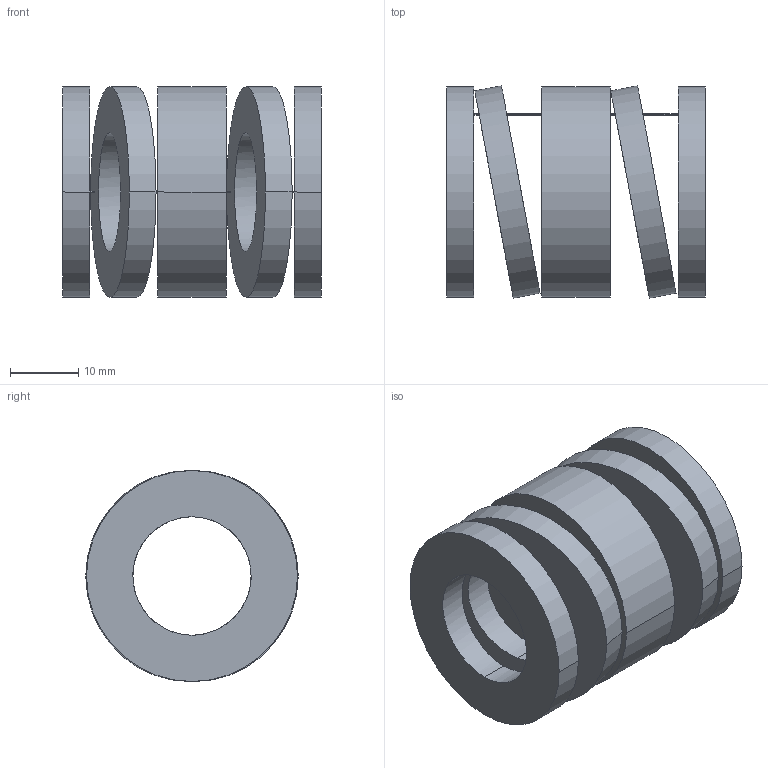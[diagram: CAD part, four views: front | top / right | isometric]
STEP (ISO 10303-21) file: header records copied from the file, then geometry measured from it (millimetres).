
FILE_DESCRIPTION(('CATIA V5 STEP Exchange'),'2;1');
FILE_NAME('C:\Users\Utente\Desktop\IO LAVORO\3D X SITO CF\X SITO\3D files 392B\392-B32-038.stp','2021-08-13T10:12:12+00:00',('none'),('none'),'CATIA Version 5 Release 20 GA (IN-10)','CATIA V5 STEP AP203','none');
FILE_SCHEMA(('CONFIG_CONTROL_DESIGN'));
Length unit declared in the file: millimetre
Products named in the file (1): 392-B32-038
Bounding box: 38 x 31.21 x 31 mm (x, y, z)
Volume: 13409.3 mm3; surface area: 9121.6 mm2
Topology: 1 solids, 1 shells, 38 faces, 92 edges, 64 vertices
Faces by surface type: cylinder 28, plane 10
Entity records: 1542 total; most frequent: CARTESIAN_POINT 643, ORIENTED_EDGE 184, DIRECTION 134, EDGE_CURVE 92, AXIS2_PLACEMENT_3D 69, VERTEX_POINT 64, EDGE_LOOP 56, ADVANCED_FACE 38
